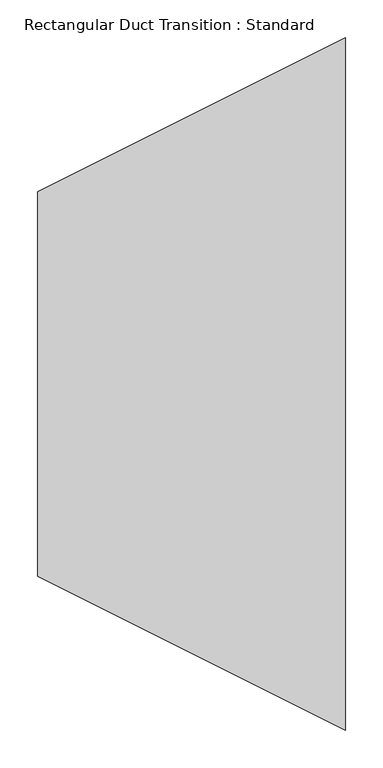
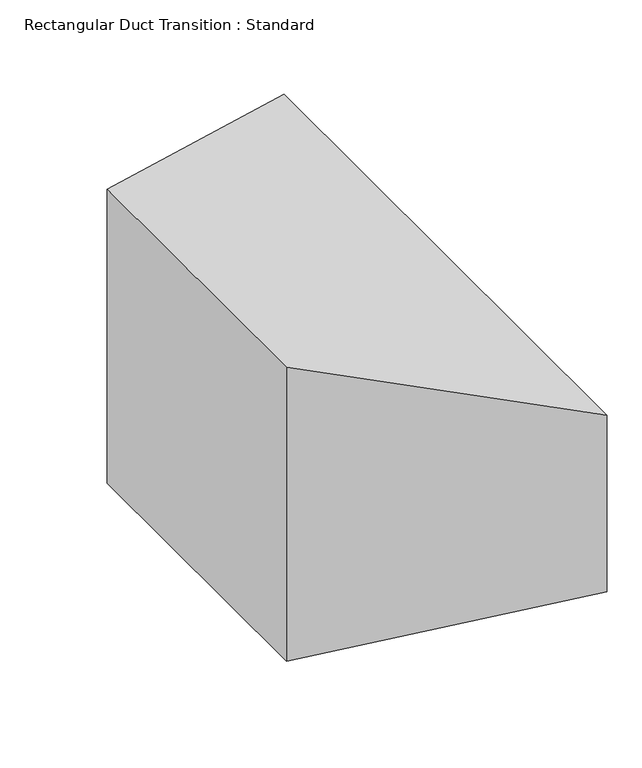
"""IFC4 building model written with IfcOpenShell, lengths in millimetres: duct fitting geometry, Rectangular Duct Transition : Standard."""

from ifc_helpers import new_model, si_unit, origin, place, context, project, spatial, faceted_brep, source, transform, mapped, element, save


def rectangular_duct_transition_standard_87278069(model_context):
    return source(origin(), model_context, "Body", "Brep", [
        faceted_brep([(406.4, -457.2, 152.4), (406.4, -457.2, -152.4), (406.4, 457.2, -152.4), (406.4, 457.2, 152.4), (0.0, -254.0, 254.0), (0.0, 254.0, 254.0), (0.0, 254.0, -254.0), (0.0, -254.0, -254.0)], [[[0, 1, 2, 3]], [[4, 5, 6, 7]], [[4, 7, 1, 0]], [[7, 6, 2, 1]], [[6, 5, 3, 2]], [[5, 4, 0, 3]]]),
        faceted_brep([(406.4, -457.2, 152.4), (406.4, -457.2, -152.4), (406.4, 457.2, -152.4), (406.4, 457.2, 152.4), (0.0, -254.0, 254.0), (0.0, 254.0, 254.0), (0.0, 254.0, -254.0), (0.0, -254.0, -254.0)], [[[0, 1, 2, 3]], [[4, 5, 6, 7]], [[4, 7, 1, 0]], [[7, 6, 2, 1]], [[6, 5, 3, 2]], [[5, 4, 0, 3]]]),
        faceted_brep([(406.4, -457.2, 152.4), (406.4, -457.2, -152.4), (406.4, 457.2, -152.4), (406.4, 457.2, 152.4), (0.0, -254.0, 254.0), (0.0, 254.0, 254.0), (0.0, 254.0, -254.0), (0.0, -254.0, -254.0)], [[[0, 1, 2, 3]], [[4, 5, 6, 7]], [[4, 7, 1, 0]], [[7, 6, 2, 1]], [[6, 5, 3, 2]], [[5, 4, 0, 3]]]),
    ])


if __name__ == "__main__":
    model = new_model("IFC4")
    model_context = context("Model", 3, world=origin())
    ifc_project = project(units=[si_unit("LENGTHUNIT", "METRE", prefix="MILLI")], contexts=[model_context])
    site = spatial("IfcSite", under=ifc_project)
    building = spatial("IfcBuilding", under=site)
    placement = place(None, origin())
    rectangular_duct_transition_standard_shape = rectangular_duct_transition_standard_87278069(model_context)
    element("IfcDuctFitting", 1, ObjectType="Rectangular Duct Transition : Standard", at=placement, inside=building, context=model_context, shape_type="MappedRepresentation", body=[
        mapped(rectangular_duct_transition_standard_shape, transform((0.0, 0.0, 0.0), x_axis=(1.0, 0.0, 0.0), y_axis=(0.0, 1.0, 0.0), z_axis=(0.0, 0.0, 1.0))),
    ])
    save(model, "model.ifc")
